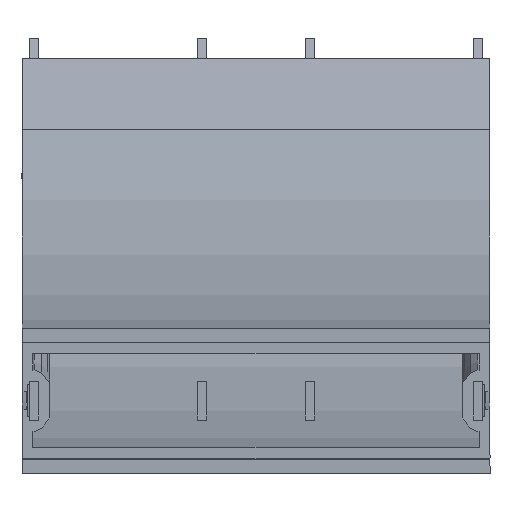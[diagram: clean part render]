
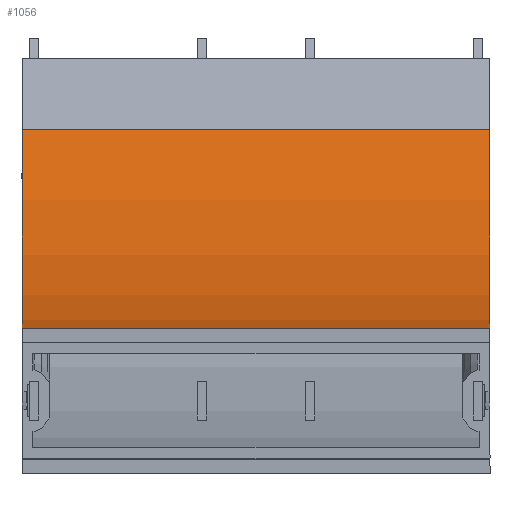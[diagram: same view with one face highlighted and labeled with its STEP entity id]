
A CAD part, front view. The second image highlights one B-rep face of the part: STEP entity #1056.
In plain terms, the highlighted cylindrical face has radius 703.5 mm (diameter 1407 mm), a partial arc.
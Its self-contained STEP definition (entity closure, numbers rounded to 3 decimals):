
#49 = DIRECTION ( 'NONE',  ( 0., 0.574, -0.819 ) ) ;
#313 = VERTEX_POINT ( 'NONE', #507 ) ;
#413 = CARTESIAN_POINT ( 'NONE',  ( 0., 80., 750. ) ) ;
#507 = CARTESIAN_POINT ( 'NONE',  ( -150., 80., 46.5 ) ) ;
#776 = AXIS2_PLACEMENT_3D ( 'NONE', #5629, #7894, #49 ) ;
#912 = VECTOR ( 'NONE', #4031, 1000. ) ;
#1056 = ADVANCED_FACE ( 'NONE', ( #8276 ), #1189, .F. ) ;
#1120 = EDGE_CURVE ( 'NONE', #8519, #5857, #8476, .T. ) ;
#1189 = CYLINDRICAL_SURFACE ( 'NONE', #8886, 703.5 ) ;
#1267 = CARTESIAN_POINT ( 'NONE',  ( 150., 80., 750. ) ) ;
#1351 = ORIENTED_EDGE ( 'NONE', *, *, #3201, .F. ) ;
#2110 = ORIENTED_EDGE ( 'NONE', *, *, #2979, .T. ) ;
#2441 = CARTESIAN_POINT ( 'NONE',  ( 150., 483.511, 173.727 ) ) ;
#2855 = DIRECTION ( 'NONE',  ( 0., 0.574, -0.819 ) ) ;
#2900 = AXIS2_PLACEMENT_3D ( 'NONE', #1267, #7676, #2855 ) ;
#2979 = EDGE_CURVE ( 'NONE', #5857, #313, #6883, .T. ) ;
#3201 = EDGE_CURVE ( 'NONE', #8519, #3714, #9185, .T. ) ;
#3331 = CARTESIAN_POINT ( 'NONE',  ( -150., 483.511, 173.727 ) ) ;
#3507 = EDGE_LOOP ( 'NONE', ( #7486, #1351, #4363, #2110 ) ) ;
#3553 = DIRECTION ( 'NONE',  ( -1., 0., 0. ) ) ;
#3714 = VERTEX_POINT ( 'NONE', #10148 ) ;
#4031 = DIRECTION ( 'NONE',  ( -1., 0., 0. ) ) ;
#4244 = CARTESIAN_POINT ( 'NONE',  ( -150., 80., 46.5 ) ) ;
#4363 = ORIENTED_EDGE ( 'NONE', *, *, #1120, .T. ) ;
#5084 = VECTOR ( 'NONE', #10131, 1000. ) ;
#5426 = CARTESIAN_POINT ( 'NONE',  ( -150., 483.511, 173.727 ) ) ;
#5629 = CARTESIAN_POINT ( 'NONE',  ( -150., 80., 750. ) ) ;
#5659 = LINE ( 'NONE', #4244, #912 ) ;
#5857 = VERTEX_POINT ( 'NONE', #3331 ) ;
#6883 = CIRCLE ( 'NONE', #776, 703.5 ) ;
#7486 = ORIENTED_EDGE ( 'NONE', *, *, #8486, .F. ) ;
#7676 = DIRECTION ( 'NONE',  ( -1., 0., 0. ) ) ;
#7894 = DIRECTION ( 'NONE',  ( -1., 0., 0. ) ) ;
#8276 = FACE_OUTER_BOUND ( 'NONE', #3507, .T. ) ;
#8476 = LINE ( 'NONE', #5426, #5084 ) ;
#8486 = EDGE_CURVE ( 'NONE', #3714, #313, #5659, .T. ) ;
#8519 = VERTEX_POINT ( 'NONE', #2441 ) ;
#8886 = AXIS2_PLACEMENT_3D ( 'NONE', #413, #3553, #9894 ) ;
#9185 = CIRCLE ( 'NONE', #2900, 703.5 ) ;
#9894 = DIRECTION ( 'NONE',  ( 0., 0., 1. ) ) ;
#10131 = DIRECTION ( 'NONE',  ( -1., 0., 0. ) ) ;
#10148 = CARTESIAN_POINT ( 'NONE',  ( 150., 80., 46.5 ) ) ;
